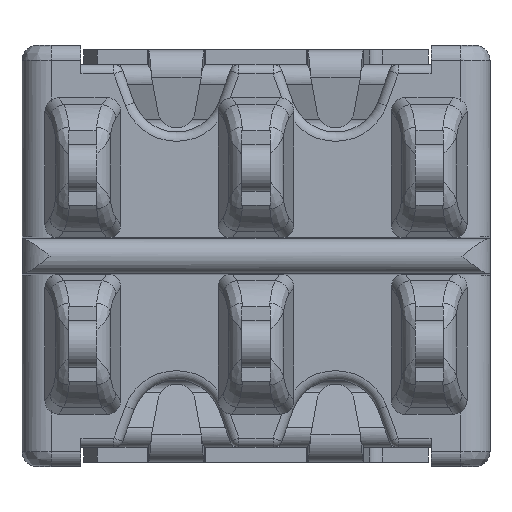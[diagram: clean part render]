
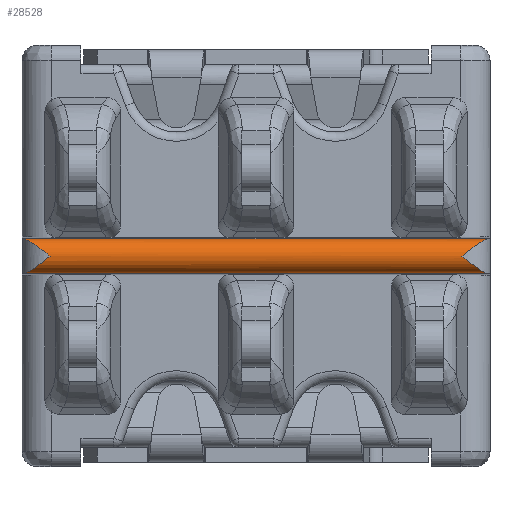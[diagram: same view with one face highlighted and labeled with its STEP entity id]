
A CAD part, front view. The second image highlights one B-rep face of the part: STEP entity #28528.
In plain terms, the highlighted cylindrical face has radius 0.466 mm (diameter 0.933 mm), a partial arc.
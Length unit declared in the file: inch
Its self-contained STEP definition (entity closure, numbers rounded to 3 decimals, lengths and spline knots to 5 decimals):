
#2963=CARTESIAN_POINT('',(0.2473,-0.20768,
0.01817));
#2968=CARTESIAN_POINT('',(-0.2473,-0.20768,
0.01817));
#3488=DIRECTION('',(1.,0.,0.));
#3489=VECTOR('',#3488,0.49474);
#3490=CARTESIAN_POINT('',(-0.24737,-0.20753,
-0.01852));
#3491=LINE('',#3490,#3489);
#5656=CARTESIAN_POINT('',(-0.2473,-0.20768,
0.01817));
#5657=CARTESIAN_POINT('',(-0.24699,-0.20838,
0.01814));
#5658=CARTESIAN_POINT('',(-0.24628,-0.20979,
0.018));
#5659=CARTESIAN_POINT('',(-0.24498,-0.21192,
0.01753));
#5660=CARTESIAN_POINT('',(-0.24343,-0.21405,
0.01678));
#5661=CARTESIAN_POINT('',(-0.24159,-0.21615,
0.01574));
#5662=CARTESIAN_POINT('',(-0.23942,-0.21818,
0.01437));
#5663=CARTESIAN_POINT('',(-0.23692,-0.22009,
0.01267));
#5664=CARTESIAN_POINT('',(-0.23407,-0.22182,
0.01063));
#5665=CARTESIAN_POINT('',(-0.2309,-0.22328,
0.00827));
#5666=CARTESIAN_POINT('',(-0.22743,-0.22439,
0.00562));
#5667=CARTESIAN_POINT('',(-0.22378,-0.22509,
0.00278));
#5668=CARTESIAN_POINT('',(-0.22127,-0.22525,0.00082));
#5669=CARTESIAN_POINT('',(-0.22,-0.22525,-0.00017));
#5671=DIRECTION('',(1.,0.,0.));
#5672=VECTOR('',#5671,0.49461);
#5673=CARTESIAN_POINT('',(-0.2473,-0.20768,
0.01817));
#5674=LINE('',#5673,#5672);
#5675=CARTESIAN_POINT('',(0.22,-0.22525,-0.00017));
#5676=CARTESIAN_POINT('',(0.22127,-0.22525,0.00082));
#5677=CARTESIAN_POINT('',(0.22378,-0.22509,
0.00278));
#5678=CARTESIAN_POINT('',(0.22743,-0.22439,
0.00562));
#5679=CARTESIAN_POINT('',(0.2309,-0.22328,
0.00827));
#5680=CARTESIAN_POINT('',(0.23407,-0.22182,
0.01063));
#5681=CARTESIAN_POINT('',(0.23692,-0.22009,
0.01267));
#5682=CARTESIAN_POINT('',(0.23942,-0.21818,
0.01437));
#5683=CARTESIAN_POINT('',(0.24159,-0.21615,
0.01574));
#5684=CARTESIAN_POINT('',(0.24343,-0.21405,
0.01678));
#5685=CARTESIAN_POINT('',(0.24498,-0.21192,
0.01753));
#5686=CARTESIAN_POINT('',(0.24628,-0.20979,
0.018));
#5687=CARTESIAN_POINT('',(0.24699,-0.20838,
0.01814));
#5688=CARTESIAN_POINT('',(0.2473,-0.20768,
0.01817));
#5690=CARTESIAN_POINT('',(0.24737,-0.20753,
-0.01852));
#5691=CARTESIAN_POINT('',(0.24706,-0.20823,
-0.0185));
#5692=CARTESIAN_POINT('',(0.24635,-0.20965,
-0.01837));
#5693=CARTESIAN_POINT('',(0.24507,-0.2118,
-0.01791));
#5694=CARTESIAN_POINT('',(0.24352,-0.21394,
-0.01718));
#5695=CARTESIAN_POINT('',(0.24168,-0.21606,
-0.01614));
#5696=CARTESIAN_POINT('',(0.23951,-0.21811,
-0.01478));
#5697=CARTESIAN_POINT('',(0.23701,-0.22003,
-0.01308));
#5698=CARTESIAN_POINT('',(0.23415,-0.22178,
-0.01104));
#5699=CARTESIAN_POINT('',(0.23096,-0.22325,
-0.00866));
#5700=CARTESIAN_POINT('',(0.22748,-0.22438,
-0.006));
#5701=CARTESIAN_POINT('',(0.2238,-0.22509,
-0.00315));
#5702=CARTESIAN_POINT('',(0.22128,-0.22525,-0.00117));
#5703=CARTESIAN_POINT('',(0.22,-0.22525,-0.00017));
#5705=CARTESIAN_POINT('',(-0.22,-0.22525,-0.00017));
#5706=CARTESIAN_POINT('',(-0.22128,-0.22525,-0.00117));
#5707=CARTESIAN_POINT('',(-0.2238,-0.22509,
-0.00315));
#5708=CARTESIAN_POINT('',(-0.22748,-0.22438,
-0.006));
#5709=CARTESIAN_POINT('',(-0.23096,-0.22325,
-0.00866));
#5710=CARTESIAN_POINT('',(-0.23415,-0.22178,
-0.01104));
#5711=CARTESIAN_POINT('',(-0.23701,-0.22003,
-0.01308));
#5712=CARTESIAN_POINT('',(-0.23951,-0.21811,
-0.01478));
#5713=CARTESIAN_POINT('',(-0.24168,-0.21606,
-0.01614));
#5714=CARTESIAN_POINT('',(-0.24352,-0.21394,
-0.01718));
#5715=CARTESIAN_POINT('',(-0.24507,-0.2118,
-0.01791));
#5716=CARTESIAN_POINT('',(-0.24635,-0.20965,
-0.01837));
#5717=CARTESIAN_POINT('',(-0.24706,-0.20823,
-0.0185));
#5718=CARTESIAN_POINT('',(-0.24737,-0.20753,
-0.01852));
#18590=VERTEX_POINT('',#2963);
#18591=VERTEX_POINT('',#5675);
#18592=VERTEX_POINT('',#5690);
#18597=VERTEX_POINT('',#2968);
#18598=VERTEX_POINT('',#5669);
#18599=VERTEX_POINT('',#5718);
#28515=CARTESIAN_POINT('',(-0.25,-0.20689,-0.00017));
#28516=DIRECTION('',(1.,0.,0.));
#28517=DIRECTION('',(0.,0.,-1.));
#28518=AXIS2_PLACEMENT_3D('',#28515,#28516,#28517);
#28519=CYLINDRICAL_SURFACE('',#28518,0.01836);
#28520=ORIENTED_EDGE('',*,*,#28506,.F.);
#28521=ORIENTED_EDGE('',*,*,#24600,.T.);
#28522=ORIENTED_EDGE('',*,*,#25355,.F.);
#28523=ORIENTED_EDGE('',*,*,#25353,.F.);
#28524=ORIENTED_EDGE('',*,*,#25395,.F.);
#28525=ORIENTED_EDGE('',*,*,#28508,.F.);
#28526=EDGE_LOOP('',(#28520,#28521,#28522,#28523,#28524,#28525));
#28527=FACE_OUTER_BOUND('',#28526,.F.);
#28528=ADVANCED_FACE('',(#28527),#28519,.T.);
#5670=B_SPLINE_CURVE_WITH_KNOTS('',3,(#5656,#5657,#5658,#5659,#5660,#5661,#5662,
#5663,#5664,#5665,#5666,#5667,#5668,#5669),.UNSPECIFIED.,.F.,.F.,(4,1,1,1,1,1,1,
1,1,1,1,4),(0.,0.09091,0.18182,0.27273,
0.36364,0.45455,0.54545,0.63636,
0.72727,0.81818,0.90909,1.),.UNSPECIFIED.);
#5689=B_SPLINE_CURVE_WITH_KNOTS('',3,(#5675,#5676,#5677,#5678,#5679,#5680,#5681,
#5682,#5683,#5684,#5685,#5686,#5687,#5688),.UNSPECIFIED.,.F.,.F.,(4,1,1,1,1,1,1,
1,1,1,1,4),(0.,0.09091,0.18182,0.27273,
0.36364,0.45455,0.54545,0.63636,
0.72727,0.81818,0.90909,1.),.UNSPECIFIED.);
#5704=B_SPLINE_CURVE_WITH_KNOTS('',3,(#5690,#5691,#5692,#5693,#5694,#5695,#5696,
#5697,#5698,#5699,#5700,#5701,#5702,#5703),.UNSPECIFIED.,.F.,.F.,(4,1,1,1,1,1,1,
1,1,1,1,4),(0.,0.09091,0.18182,0.27273,
0.36364,0.45455,0.54545,0.63636,
0.72727,0.81818,0.90909,1.),.UNSPECIFIED.);
#5719=B_SPLINE_CURVE_WITH_KNOTS('',3,(#5705,#5706,#5707,#5708,#5709,#5710,#5711,
#5712,#5713,#5714,#5715,#5716,#5717,#5718),.UNSPECIFIED.,.F.,.F.,(4,1,1,1,1,1,1,
1,1,1,1,4),(0.,0.09091,0.18182,0.27273,
0.36364,0.45455,0.54545,0.63636,
0.72727,0.81818,0.90909,1.),.UNSPECIFIED.);
#24600=EDGE_CURVE('',#18597,#18590,#5674,.T.);
#25353=EDGE_CURVE('',#18592,#18591,#5704,.T.);
#25355=EDGE_CURVE('',#18591,#18590,#5689,.T.);
#25395=EDGE_CURVE('',#18599,#18592,#3491,.T.);
#28506=EDGE_CURVE('',#18597,#18598,#5670,.T.);
#28508=EDGE_CURVE('',#18598,#18599,#5719,.T.);
